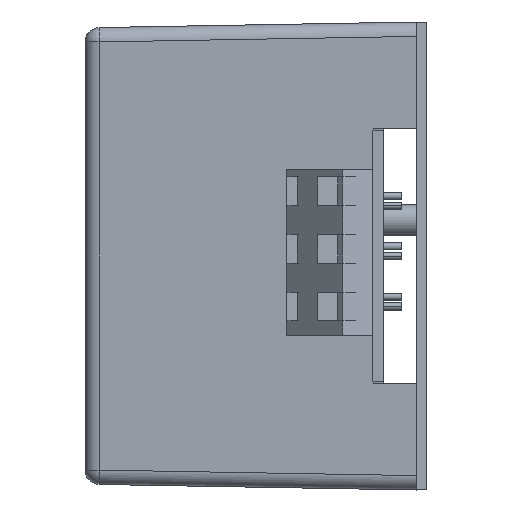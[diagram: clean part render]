
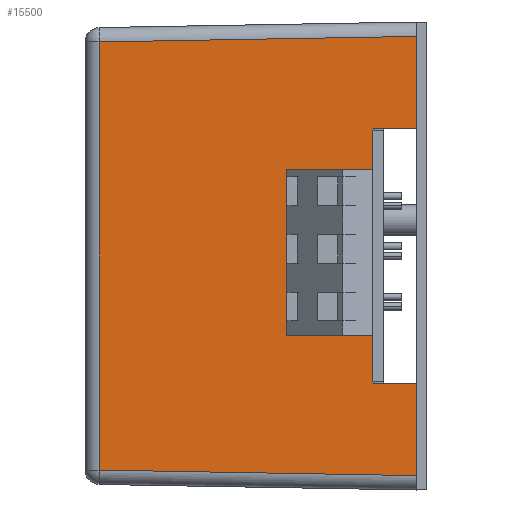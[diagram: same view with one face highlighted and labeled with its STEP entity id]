
A CAD part, left-side view. The second image highlights one B-rep face of the part: STEP entity #15500.
In plain terms, the highlighted planar face has unit normal (-1, 0.018, 0).
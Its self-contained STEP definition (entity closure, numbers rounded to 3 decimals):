
#1117 = VECTOR ( 'NONE', #2129, 1000. ) ;
#1769 = LINE ( 'NONE', #16310, #27208 ) ;
#2129 = DIRECTION ( 'NONE',  ( 0.017, 1., -0.017 ) ) ;
#2247 = EDGE_CURVE ( 'NONE', #13592, #26498, #26524, .T. ) ;
#2795 = LINE ( 'NONE', #3409, #29000 ) ;
#3221 = CARTESIAN_POINT ( 'NONE',  ( 0.105, 5.999, -50.25 ) ) ;
#3409 = CARTESIAN_POINT ( 'NONE',  ( 0.769, 44.035, 0. ) ) ;
#3789 = CARTESIAN_POINT ( 'NONE',  ( 0., 0., 0. ) ) ;
#4983 = ORIENTED_EDGE ( 'NONE', *, *, #2247, .T. ) ;
#5564 = VECTOR ( 'NONE', #22107, 1000. ) ;
#5770 = DIRECTION ( 'NONE',  ( 0., 0., 1. ) ) ;
#5844 = CARTESIAN_POINT ( 'NONE',  ( 0., 0., -14.75 ) ) ;
#6374 = DIRECTION ( 'NONE',  ( -0.017, -1., 0. ) ) ;
#8110 = ORIENTED_EDGE ( 'NONE', *, *, #28989, .T. ) ;
#8536 = VECTOR ( 'NONE', #5770, 1000. ) ;
#9060 = DIRECTION ( 'NONE',  ( 0.017, 1., 0. ) ) ;
#9353 = VERTEX_POINT ( 'NONE', #26379 ) ;
#10179 = CARTESIAN_POINT ( 'NONE',  ( 0.769, 44.035, -62.232 ) ) ;
#10758 = LINE ( 'NONE', #3221, #21884 ) ;
#11735 = CARTESIAN_POINT ( 'NONE',  ( 0.019, 1.099, -62.981 ) ) ;
#12088 = EDGE_CURVE ( 'NONE', #26498, #26760, #2795, .T. ) ;
#13427 = DIRECTION ( 'NONE',  ( -0.017, -1., 0. ) ) ;
#13592 = VERTEX_POINT ( 'NONE', #26695 ) ;
#14565 = VECTOR ( 'NONE', #30504, 1000. ) ;
#15381 = LINE ( 'NONE', #27973, #14565 ) ;
#15417 = VERTEX_POINT ( 'NONE', #20936 ) ;
#15500 = ADVANCED_FACE ( 'NONE', ( #26659 ), #26559, .T. ) ;
#16082 = LINE ( 'NONE', #20998, #8536 ) ;
#16310 = CARTESIAN_POINT ( 'NONE',  ( 0., 0., -50.25 ) ) ;
#18551 = VERTEX_POINT ( 'NONE', #29146 ) ;
#18760 = DIRECTION ( 'NONE',  ( 0., 0., -1. ) ) ;
#19055 = LINE ( 'NONE', #11735, #5564 ) ;
#19393 = CARTESIAN_POINT ( 'NONE',  ( 0., 0., -14.75 ) ) ;
#20193 = LINE ( 'NONE', #19393, #32882 ) ;
#20350 = VERTEX_POINT ( 'NONE', #5844 ) ;
#20913 = ORIENTED_EDGE ( 'NONE', *, *, #26128, .T. ) ;
#20936 = CARTESIAN_POINT ( 'NONE',  ( 0.105, 5.999, -50.25 ) ) ;
#20998 = CARTESIAN_POINT ( 'NONE',  ( 0., 0., 0. ) ) ;
#21245 = EDGE_CURVE ( 'NONE', #9353, #32480, #16082, .T. ) ;
#21285 = EDGE_CURVE ( 'NONE', #15417, #32480, #1769, .T. ) ;
#21590 = DIRECTION ( 'NONE',  ( -1., 0.017, 0. ) ) ;
#21884 = VECTOR ( 'NONE', #23579, 1000. ) ;
#21918 = AXIS2_PLACEMENT_3D ( 'NONE', #3789, #21590, #6374 ) ;
#21942 = EDGE_LOOP ( 'NONE', ( #28535, #29220, #26794, #26749, #8110, #4983, #28891, #20913 ) ) ;
#22107 = DIRECTION ( 'NONE',  ( -0.017, -1., -0.017 ) ) ;
#22353 = CARTESIAN_POINT ( 'NONE',  ( 0., 0., -50.25 ) ) ;
#23579 = DIRECTION ( 'NONE',  ( 0., 0., -1. ) ) ;
#26128 = EDGE_CURVE ( 'NONE', #26760, #9353, #19055, .T. ) ;
#26379 = CARTESIAN_POINT ( 'NONE',  ( 0., 0., -63. ) ) ;
#26498 = VERTEX_POINT ( 'NONE', #26582 ) ;
#26524 = LINE ( 'NONE', #27452, #1117 ) ;
#26559 = PLANE ( 'NONE',  #21918 ) ;
#26582 = CARTESIAN_POINT ( 'NONE',  ( 0.769, 44.035, -2.768 ) ) ;
#26659 = FACE_OUTER_BOUND ( 'NONE', #21942, .T. ) ;
#26695 = CARTESIAN_POINT ( 'NONE',  ( 0., 0., -2. ) ) ;
#26749 = ORIENTED_EDGE ( 'NONE', *, *, #28803, .F. ) ;
#26760 = VERTEX_POINT ( 'NONE', #10179 ) ;
#26794 = ORIENTED_EDGE ( 'NONE', *, *, #30752, .F. ) ;
#27208 = VECTOR ( 'NONE', #13427, 1000. ) ;
#27452 = CARTESIAN_POINT ( 'NONE',  ( -0.001, -0.035, -1.999 ) ) ;
#27973 = CARTESIAN_POINT ( 'NONE',  ( 0., 0., 0. ) ) ;
#28535 = ORIENTED_EDGE ( 'NONE', *, *, #21245, .T. ) ;
#28803 = EDGE_CURVE ( 'NONE', #20350, #18551, #20193, .T. ) ;
#28891 = ORIENTED_EDGE ( 'NONE', *, *, #12088, .T. ) ;
#28989 = EDGE_CURVE ( 'NONE', #20350, #13592, #15381, .T. ) ;
#29000 = VECTOR ( 'NONE', #18760, 1000. ) ;
#29146 = CARTESIAN_POINT ( 'NONE',  ( 0.105, 5.999, -14.75 ) ) ;
#29220 = ORIENTED_EDGE ( 'NONE', *, *, #21285, .F. ) ;
#30504 = DIRECTION ( 'NONE',  ( 0., 0., 1. ) ) ;
#30752 = EDGE_CURVE ( 'NONE', #18551, #15417, #10758, .T. ) ;
#32480 = VERTEX_POINT ( 'NONE', #22353 ) ;
#32882 = VECTOR ( 'NONE', #9060, 1000. ) ;
